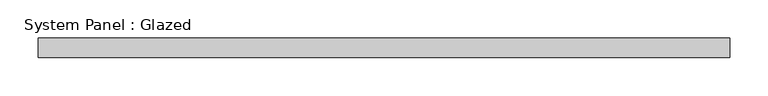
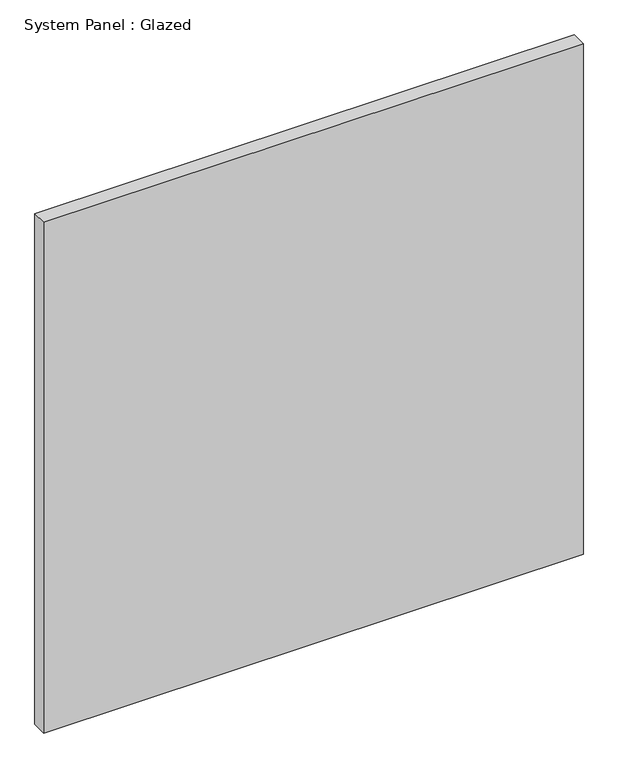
"""IFC4 building model written with IfcOpenShell, lengths in millimetres: plate geometry, System Panel : Glazed."""

from ifc_helpers import new_model, si_unit, origin, origin_with_axes, place, context, project, spatial, polyline, outline, extrude, source, transform, mapped, element, save


def system_panel_glazed_6fd2c7c7(model_context):
    return source(origin(), model_context, "Body", "SweptSolid", [
        extrude(outline(polyline([(450.0, -49.5), (-450.0, -49.5), (-450.0, -24.5), (450.0, -24.5), (450.0, -49.5)])), origin_with_axes(), (0.0, 0.0, 1.0), 900.0),
    ])


if __name__ == "__main__":
    model = new_model("IFC4")
    model_context = context("Model", 3, world=origin())
    ifc_project = project(units=[si_unit("LENGTHUNIT", "METRE", prefix="MILLI")], contexts=[model_context])
    site = spatial("IfcSite", under=ifc_project)
    building = spatial("IfcBuilding", under=site)
    placement = place(None, origin())
    system_panel_glazed_shape = system_panel_glazed_6fd2c7c7(model_context)
    element("IfcPlate", 1, ObjectType="System Panel : Glazed", at=placement, inside=building, context=model_context, shape_type="MappedRepresentation", body=[
        mapped(system_panel_glazed_shape, transform((0.0, 0.0, 0.0), x_axis=(1.0, 0.0, 0.0), y_axis=(0.0, 1.0, 0.0), z_axis=(0.0, 0.0, 1.0))),
    ])
    save(model, "model.ifc")
